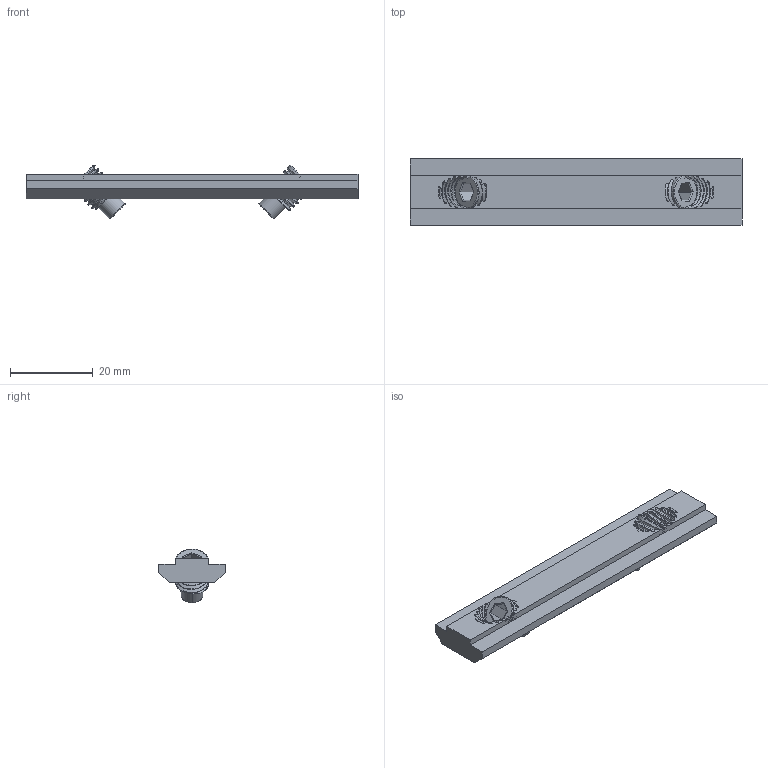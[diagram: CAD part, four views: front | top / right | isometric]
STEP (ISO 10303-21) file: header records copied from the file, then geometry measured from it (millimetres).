
FILE_DESCRIPTION (( 'STEP AP214' ), '1' );
FILE_NAME ('24871_VERSTV8.SLDASM.STEP', '2016-12-01T17:09:54', ( '' ), ( '' ), 'SwSTEP 2.0', 'SolidWorks 2016', '' );
FILE_SCHEMA (( 'AUTOMOTIVE_DESIGN' ));
Length unit declared in the file: millimetre
Products named in the file (3): Gewindestift M8x12 St verzinkt; 24871_VERSTV8.SLDASM; Stoßverbinder 8 M8x12 (P38)
Assembly tree (3 placements, depth 2):
  24871_VERSTV8.SLDASM
    Stoßverbinder 8 M8x12 (P38)
    Gewindestift M8x12 St verzinkt  x2
Bounding box: 80 x 16 x 13.01 mm (x, y, z)
Volume: 6064.6 mm3; surface area: 4944.6 mm2
Topology: 3 solids, 3 shells, 272 faces, 754 edges, 492 vertices
Faces by surface type: bspline 130, cylinder 100, plane 34, torus 8
Entity records: 52232 total; most frequent: CARTESIAN_POINT 47602, ORIENTED_EDGE 1312, EDGE_CURVE 656, B_SPLINE_CURVE_WITH_KNOTS 490, VERTEX_POINT 430, DIRECTION 352, EDGE_LOOP 242, FACE_OUTER_BOUND 232
